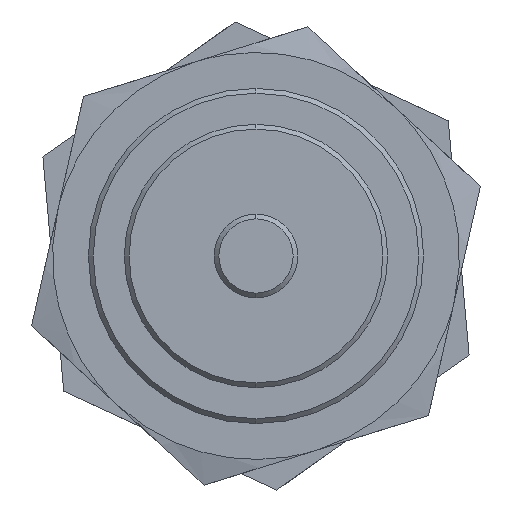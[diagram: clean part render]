
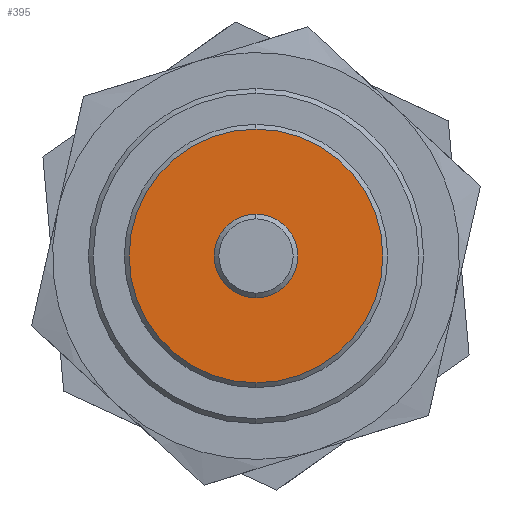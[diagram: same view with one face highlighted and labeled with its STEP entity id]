
A CAD part, left-side view. The second image highlights one B-rep face of the part: STEP entity #395.
In plain terms, the highlighted planar face has unit normal (-1, 0, 0).
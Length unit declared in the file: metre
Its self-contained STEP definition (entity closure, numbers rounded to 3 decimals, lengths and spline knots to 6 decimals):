
#30 = CARTESIAN_POINT ( 'NONE',  ( 0.01, 0., 0.00175 ) ) ;
#60 = FACE_OUTER_BOUND ( 'NONE', #852, .T. ) ;
#134 = DIRECTION ( 'NONE',  ( -1., 0., 0. ) ) ;
#215 = CIRCLE ( 'NONE', #1242, 0.00175 ) ;
#306 = EDGE_CURVE ( 'NONE', #824, #1039, #888, .T. ) ;
#312 = ORIENTED_EDGE ( 'NONE', *, *, #518, .F. ) ;
#355 = CARTESIAN_POINT ( 'NONE',  ( 0.01, 0., 0. ) ) ;
#389 = AXIS2_PLACEMENT_3D ( 'NONE', #512, #850, #859 ) ;
#395 = ADVANCED_FACE ( 'NONE', ( #1254, #60 ), #846, .F. ) ;
#404 = DIRECTION ( 'NONE',  ( 0., 0., 1. ) ) ;
#463 = DIRECTION ( 'NONE',  ( 0., 0., -1. ) ) ;
#472 = DIRECTION ( 'NONE',  ( 0., 0., -1. ) ) ;
#485 = EDGE_CURVE ( 'NONE', #1425, #1230, #855, .T. ) ;
#512 = CARTESIAN_POINT ( 'NONE',  ( 0.01, -0.005364, 0.005364 ) ) ;
#518 = EDGE_CURVE ( 'NONE', #1039, #824, #215, .T. ) ;
#526 = CARTESIAN_POINT ( 'NONE',  ( 0.01, 0., 0. ) ) ;
#555 = EDGE_CURVE ( 'NONE', #1230, #1425, #1393, .T. ) ;
#588 = ORIENTED_EDGE ( 'NONE', *, *, #485, .T. ) ;
#668 = CARTESIAN_POINT ( 'NONE',  ( 0.01, 0., 0.0053 ) ) ;
#708 = ORIENTED_EDGE ( 'NONE', *, *, #555, .T. ) ;
#803 = CARTESIAN_POINT ( 'NONE',  ( 0.01, 0., 0. ) ) ;
#824 = VERTEX_POINT ( 'NONE', #30 ) ;
#846 = PLANE ( 'NONE',  #389 ) ;
#850 = DIRECTION ( 'NONE',  ( 1., 0., 0. ) ) ;
#851 = ORIENTED_EDGE ( 'NONE', *, *, #306, .F. ) ;
#852 = EDGE_LOOP ( 'NONE', ( #708, #588 ) ) ;
#855 = CIRCLE ( 'NONE', #981, 0.0053 ) ;
#859 = DIRECTION ( 'NONE',  ( 0., 0., -1. ) ) ;
#888 = CIRCLE ( 'NONE', #970, 0.00175 ) ;
#892 = EDGE_LOOP ( 'NONE', ( #851, #312 ) ) ;
#920 = DIRECTION ( 'NONE',  ( 0., 0., 1. ) ) ;
#955 = CARTESIAN_POINT ( 'NONE',  ( 0.01, 0., -0.00175 ) ) ;
#970 = AXIS2_PLACEMENT_3D ( 'NONE', #526, #1193, #404 ) ;
#981 = AXIS2_PLACEMENT_3D ( 'NONE', #1136, #1070, #463 ) ;
#1039 = VERTEX_POINT ( 'NONE', #955 ) ;
#1070 = DIRECTION ( 'NONE',  ( -1., 0., 0. ) ) ;
#1136 = CARTESIAN_POINT ( 'NONE',  ( 0.01, 0., 0. ) ) ;
#1138 = DIRECTION ( 'NONE',  ( -1., 0., 0. ) ) ;
#1193 = DIRECTION ( 'NONE',  ( -1., 0., 0. ) ) ;
#1230 = VERTEX_POINT ( 'NONE', #1416 ) ;
#1234 = AXIS2_PLACEMENT_3D ( 'NONE', #355, #1138, #472 ) ;
#1242 = AXIS2_PLACEMENT_3D ( 'NONE', #803, #134, #920 ) ;
#1254 = FACE_BOUND ( 'NONE', #892, .T. ) ;
#1393 = CIRCLE ( 'NONE', #1234, 0.0053 ) ;
#1416 = CARTESIAN_POINT ( 'NONE',  ( 0.01, 0., -0.0053 ) ) ;
#1425 = VERTEX_POINT ( 'NONE', #668 ) ;
